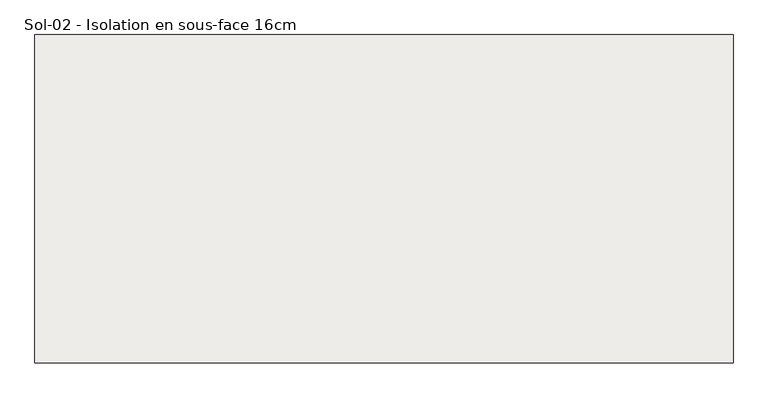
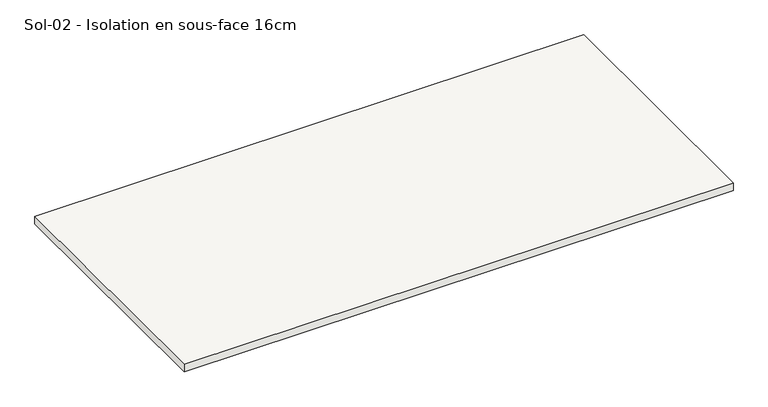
"""IFC4 building model written with IfcOpenShell, lengths in millimetres: slab geometry, Sol-02 - Isolation en sous-face 16cm."""

from ifc_helpers import new_model, si_unit, frame, origin, place, context, project, spatial, polyline, outline, extrude, source, transform, mapped, element, save


def sol_02_isolation_en_sous_face_16cm_693a5a7a(model_context):
    return source(origin(), model_context, "Body", "SweptSolid", [
        extrude(outline(polyline([(-36679.9987968, 100.0), (-36679.9987968, -5075.4850099), (-47679.998776, -5075.4850099), (-47679.998776, 100.0), (-36679.9987968, 100.0)])), frame((0.0, 0.0, -470.0), z_axis=(0.0, 0.0, 1.0), x_axis=(1.0, 0.0, 0.0)), (0.0, 0.0, 1.0), 160.0),
    ])


if __name__ == "__main__":
    model = new_model("IFC4")
    model_context = context("Model", 3, world=origin())
    ifc_project = project(units=[si_unit("LENGTHUNIT", "METRE", prefix="MILLI")], contexts=[model_context])
    site = spatial("IfcSite", under=ifc_project)
    building = spatial("IfcBuilding", under=site)
    placement = place(None, origin())
    sol_02_isolation_en_sous_face_16cm_shape = sol_02_isolation_en_sous_face_16cm_693a5a7a(model_context)
    element("IfcSlab", 1, ObjectType="Sol-02 - Isolation en sous-face 16cm", at=placement, inside=building, context=model_context, shape_type="MappedRepresentation", body=[
        mapped(sol_02_isolation_en_sous_face_16cm_shape, transform((0.0, 0.0, 0.0), x_axis=(1.0, 0.0, 0.0), y_axis=(0.0, 1.0, 0.0), z_axis=(0.0, 0.0, 1.0))),
    ])
    save(model, "model.ifc")
